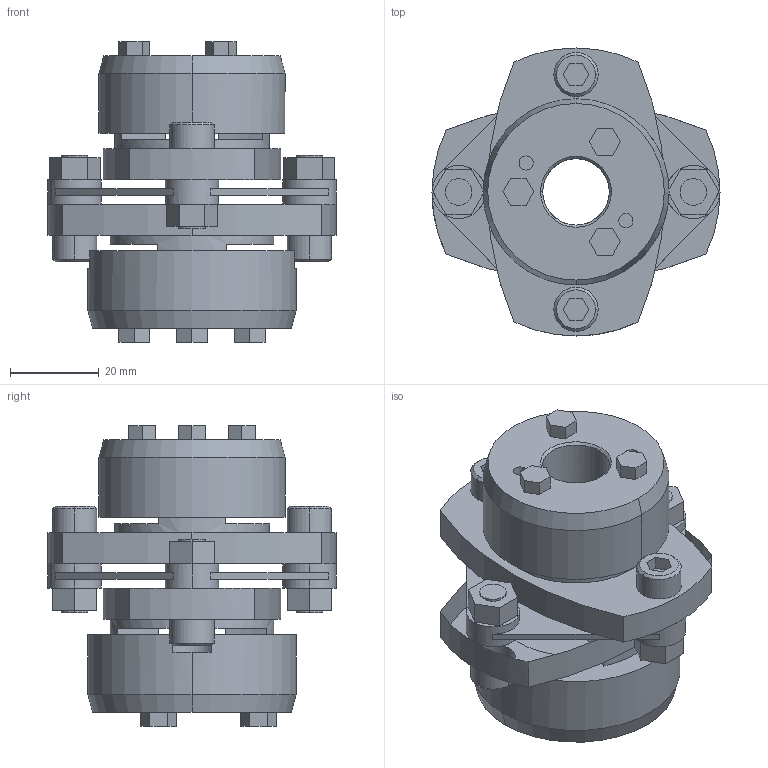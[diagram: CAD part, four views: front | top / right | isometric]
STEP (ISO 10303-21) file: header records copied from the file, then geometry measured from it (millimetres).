
FILE_DESCRIPTION((''),'2;1');
FILE_NAME('LCS-65T7-14×18.stp','2015-10-28T08:47:05',(''),(''),'AutoCAD STEP 2000i','AutoCAD 2000i',', , ');
FILE_SCHEMA(('CONFIG_CONTROL_DESIGN'));
Length unit declared in the file: millimetre
Products named in the file (8): LCS-65T7-14×17; 忣兜1; LC65T7-T017; LC65T7-T015; LC65T7-T014-1; LC65T7-T014; LC65T7-T015-1; LCS65-ITA
Assembly tree (8 placements, depth 2):
  LCS-65T7-14×17
    忣兜1
    LC65T7-T017
    LC65T7-T015  x2
    LC65T7-T014-1
    LC65T7-T014
    LC65T7-T015-1
    LCS65-ITA
Bounding box: 65 x 65 x 67.9 mm (x, y, z)
Volume: 87165.2 mm3; surface area: 29147.2 mm2
Topology: 1 solids, 1 shells, 224 faces, 589 edges, 401 vertices
Faces by surface type: plane 134, cylinder 70, cone 20
Entity records: 7147 total; most frequent: DIRECTION 1260, CARTESIAN_POINT 1209, ORIENTED_EDGE 1150, EDGE_CURVE 575, AXIS2_PLACEMENT_3D 438, VECTOR 384, LINE 384, VERTEX_POINT 375
